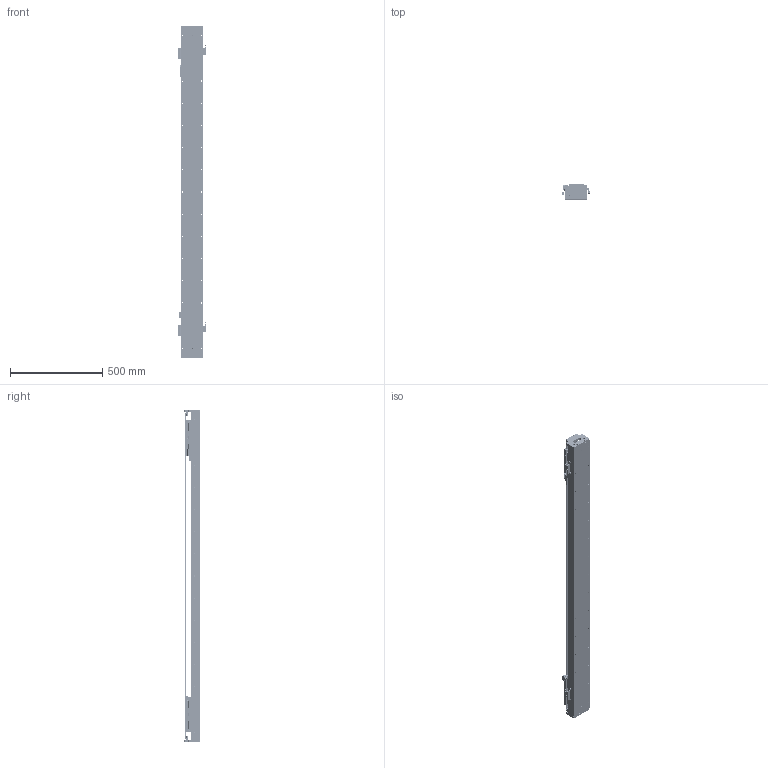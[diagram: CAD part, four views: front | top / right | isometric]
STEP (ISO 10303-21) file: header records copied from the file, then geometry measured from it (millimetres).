
FILE_DESCRIPTION (( 'STEP AP203' ), '1' );
FILE_NAME ('DKW120-2×B2-W060（T1280-L005-0.2）.STEP', '2021-09-22T03:51:20', ( '微软用户' ), ( '微软中国' ), 'SwSTEP 2.0', 'SolidWorks 2018', '' );
FILE_SCHEMA (( 'CONFIG_CONTROL_DESIGN' ));
Length unit declared in the file: millimetre
Products named in the file (24): Ru2; 10940-0001-004-00 120詩湍裔啣; DKW-GYP-ZJ-00 笢潔嫖萇覜茼え; RUS嫖掑郪璃; 砎蝶猾沭; DKW-KGZ-ZJ-00 中间光电开关支架; 10980-0001-003-00 嫖萇羲壽嘐隅釱; 12160-0000-003-00 DKW120詩湍嶺輸; DKW120-2×B2-W060（T1280-L005-0.2）; DKW-SG-GYP-H-00 嫖萇覜茼え; 12160-0000-004-00  DKW120詩湍揤輸; DKW120-B15-T300-DZ-00 菁釱; B2-W060_00; DKW120 单轴模组-拉钢带组件; MSB15-DG-U; DKW119-RU-DTJ-00 RU2黍杅芛盓殤; 06652-0001-001-00 DKW120傷啣; B2-W060; BKMA01-W060-TRL280; 06652-0001-004-00 DKW120嶺輸菜輸; EE_SX674A; RUS嫖掑喜; DKW-HXJ-JY-00 遣喳砎蝶; DKW-DG-XJ-Z-00 笢潔滅袉砎蝶
Assembly tree (41 placements, depth 3):
  DKW120-2×B2-W060（T1280-L005-0.2）
    DKW120-B15-T300-DZ-00 菁釱
    MSB15-DG-U  x2
    DKW120 单轴模组-拉钢带组件
      06652-0001-001-00 DKW120傷啣  x2
      06652-0001-004-00 DKW120嶺輸菜輸  x4
      DKW-HXJ-JY-00 遣喳砎蝶  x4
      10940-0001-004-00 120詩湍裔啣
      砎蝶猾沭  x2
      12160-0000-003-00 DKW120詩湍嶺輸  x2
      12160-0000-004-00  DKW120詩湍揤輸  x2
    BKMA01-W060-TRL280
    RUS嫖掑郪璃
      RUS嫖掑喜
      Ru2
    10980-0001-003-00 嫖萇羲壽嘐隅釱  x2
    B2-W060  x2
      DKW-SG-GYP-H-00 嫖萇覜茼え
      B2-W060_00
      DKW119-RU-DTJ-00 RU2黍杅芛盓殤
    EE_SX674A  x5
    Ru2
    DKW-DG-XJ-Z-00 笢潔滅袉砎蝶
    DKW-GYP-ZJ-00 笢潔嫖萇覜茼え
    DKW-KGZ-ZJ-00 中间光电开关支架
Bounding box: 154.1 x 84 x 1796 mm (x, y, z)
Volume: 6937133.1 mm3; surface area: 2657112.9 mm2
Topology: 60 solids, 158 shells, 6340 faces, 17110 edges, 11011 vertices
Faces by surface type: plane 3514, cylinder 1844, bspline 494, cone 488
Entity records: 136612 total; most frequent: CARTESIAN_POINT 47152, ORIENTED_EDGE 18417, DIRECTION 17144, EDGE_CURVE 9249, VERTEX_POINT 6065, VECTOR 5736, LINE 5736, AXIS2_PLACEMENT_3D 5704
